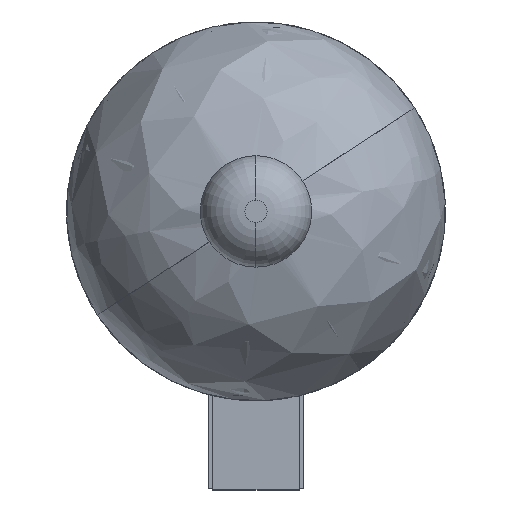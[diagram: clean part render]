
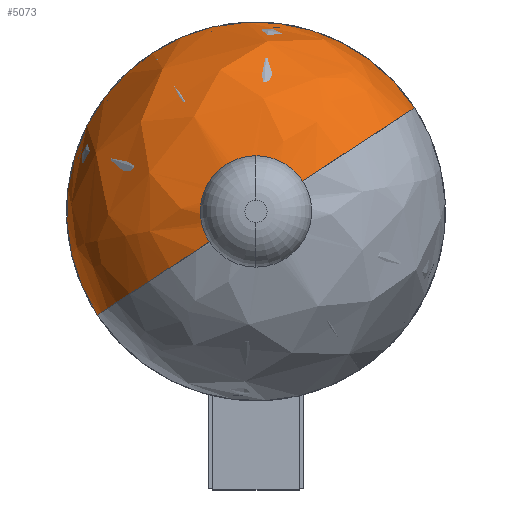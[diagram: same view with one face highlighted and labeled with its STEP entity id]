
A CAD part, front view. The second image highlights one B-rep face of the part: STEP entity #5073.
In plain terms, the highlighted free-form (B-spline) face has degree [3, 3] with [4, 4] control points.
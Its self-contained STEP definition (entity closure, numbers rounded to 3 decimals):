
#50 = CARTESIAN_POINT ( 'NONE',  ( 228.802, 79.921, 31.642 ) ) ;
#244 = CARTESIAN_POINT ( 'NONE',  ( 68.656, 79.921, 65.221 ) ) ;
#376 = ORIENTED_EDGE ( 'NONE', *, *, #13306, .T. ) ;
#586 = ORIENTED_EDGE ( 'NONE', *, *, #3730, .F. ) ;
#1204 = DIRECTION ( 'NONE',  ( 0., 1., 0. ) ) ;
#1458 = AXIS2_PLACEMENT_3D ( 'NONE', #3708, #4932, #5858 ) ;
#1701 = VERTEX_POINT ( 'NONE', #1952 ) ;
#1718 = FACE_OUTER_BOUND ( 'NONE', #12848, .T. ) ;
#1952 = CARTESIAN_POINT ( 'NONE',  ( 166.976, 73.292, -8.751 ) ) ;
#2189 = DIRECTION ( 'NONE',  ( 0.837, 0., 0.547 ) ) ;
#2212 = CARTESIAN_POINT ( 'NONE',  ( 166.976, 73.292, -8.751 ) ) ;
#2756 = CIRCLE ( 'NONE', #1458, 16. ) ;
#2950 = EDGE_CURVE ( 'NONE', #1701, #10686, #2756, .T. ) ;
#3207 = ORIENTED_EDGE ( 'NONE', *, *, #2950, .T. ) ;
#3270 = CARTESIAN_POINT ( 'NONE',  ( 131.939, 79.921, -31.642 ) ) ;
#3318 = CARTESIAN_POINT ( 'NONE',  ( 149.474, 73.292, 18.038 ) ) ;
#3320 = EDGE_CURVE ( 'NONE', #5913, #10833, #9870, .T. ) ;
#3373 = CARTESIAN_POINT ( 'NONE',  ( 109.212, 107.067, -46.49 ) ) ;
#3579 = DIRECTION ( 'NONE',  ( 0.837, 0., 0.547 ) ) ;
#3638 = ORIENTED_EDGE ( 'NONE', *, *, #3320, .T. ) ;
#3665 = CARTESIAN_POINT ( 'NONE',  ( 109.212, 142.286, -46.49 ) ) ;
#3708 = CARTESIAN_POINT ( 'NONE',  ( 180.371, 73.292, 0. ) ) ;
#3730 = EDGE_CURVE ( 'NONE', #1701, #10833, #13642, .T. ) ;
#4311 = CARTESIAN_POINT ( 'NONE',  ( 16.231, 107.067, 95.828 ) ) ;
#4458 = CARTESIAN_POINT ( 'NONE',  ( 158.55, 142.286, 188.809 ) ) ;
#4503 = CARTESIAN_POINT ( 'NONE',  ( 193.766, 73.292, 8.751 ) ) ;
#4711 = CARTESIAN_POINT ( 'NONE',  ( 109.212, 107.067, -46.49 ) ) ;
#4754 = CARTESIAN_POINT ( 'NONE',  ( 193.766, 73.292, 8.751 ) ) ;
#4932 = DIRECTION ( 'NONE',  ( 0., 1., 0. ) ) ;
#5014 = CIRCLE ( 'NONE', #7061, 16. ) ;
#5073 = ADVANCED_FACE ( 'NONE', ( #1718 ), #8650, .T. ) ;
#5858 = DIRECTION ( 'NONE',  ( 0.837, 0., 0.547 ) ) ;
#5913 = VERTEX_POINT ( 'NONE', #10021 ) ;
#6063 = CARTESIAN_POINT ( 'NONE',  ( 109.212, 142.286, -46.49 ) ) ;
#6423 = ORIENTED_EDGE ( 'NONE', *, *, #8055, .T. ) ;
#6515 = CARTESIAN_POINT ( 'NONE',  ( 176.263, 73.292, 35.541 ) ) ;
#6568 = CARTESIAN_POINT ( 'NONE',  ( 109.212, 142.286, -46.49 ) ) ;
#7051 =( BOUNDED_CURVE ( )  B_SPLINE_CURVE ( 3, ( #4754, #7922, #13342, #13469 ),
 .UNSPECIFIED., .F., .T. ) 
 B_SPLINE_CURVE_WITH_KNOTS ( ( 4, 4 ),
 ( 1.76, 3.142 ),
 .UNSPECIFIED. ) 
 CURVE ( )  GEOMETRIC_REPRESENTATION_ITEM ( )  RATIONAL_B_SPLINE_CURVE ( ( 1., 0.847, 0.847, 1. ) ) 
 REPRESENTATION_ITEM ( '' )  );
#7061 = AXIS2_PLACEMENT_3D ( 'NONE', #8656, #1204, #2189 ) ;
#7771 = CARTESIAN_POINT ( 'NONE',  ( 158.55, 107.067, 188.809 ) ) ;
#7922 = CARTESIAN_POINT ( 'NONE',  ( 228.802, 79.921, 31.642 ) ) ;
#8055 = EDGE_CURVE ( 'NONE', #10686, #11942, #5014, .T. ) ;
#8480 = CARTESIAN_POINT ( 'NONE',  ( 193.766, 73.292, 8.751 ) ) ;
#8650 =( BOUNDED_SURFACE ( )  B_SPLINE_SURFACE ( 3, 3, ( 
 ( #4503, #6515, #3318, #2212 ),
 ( #50, #9767, #244, #3270 ),
 ( #10846, #7771, #4311, #3373 ),
 ( #11862, #4458, #8722, #6568 ) ),
 .UNSPECIFIED., .F., .F., .F. ) 
 B_SPLINE_SURFACE_WITH_KNOTS ( ( 4, 4 ),
 ( 4, 4 ),
 ( 0., 1. ),
 ( 0., 1. ),
 .UNSPECIFIED. ) 
 GEOMETRIC_REPRESENTATION_ITEM ( )  RATIONAL_B_SPLINE_SURFACE ( (
 ( 1., 0.333, 0.333, 1.),
 ( 0.847, 0.282, 0.282, 0.847),
 ( 0.847, 0.282, 0.282, 0.847),
 ( 1., 0.333, 0.333, 1.) ) ) 
 REPRESENTATION_ITEM ( '' )  SURFACE ( )  );
#8656 = CARTESIAN_POINT ( 'NONE',  ( 180.371, 73.292, 0. ) ) ;
#8722 = CARTESIAN_POINT ( 'NONE',  ( 16.231, 142.286, 95.828 ) ) ;
#8768 = AXIS2_PLACEMENT_3D ( 'NONE', #11005, #13257, #3579 ) ;
#8927 = CARTESIAN_POINT ( 'NONE',  ( 171.62, 73.292, 13.395 ) ) ;
#9767 = CARTESIAN_POINT ( 'NONE',  ( 165.519, 79.921, 128.505 ) ) ;
#9870 = CIRCLE ( 'NONE', #8768, 85. ) ;
#10021 = CARTESIAN_POINT ( 'NONE',  ( 251.53, 142.286, 46.49 ) ) ;
#10095 = CARTESIAN_POINT ( 'NONE',  ( 131.939, 79.921, -31.642 ) ) ;
#10686 = VERTEX_POINT ( 'NONE', #8927 ) ;
#10833 = VERTEX_POINT ( 'NONE', #6063 ) ;
#10846 = CARTESIAN_POINT ( 'NONE',  ( 251.53, 107.067, 46.49 ) ) ;
#11005 = CARTESIAN_POINT ( 'NONE',  ( 180.371, 142.286, 0. ) ) ;
#11862 = CARTESIAN_POINT ( 'NONE',  ( 251.53, 142.286, 46.49 ) ) ;
#11942 = VERTEX_POINT ( 'NONE', #8480 ) ;
#12059 = CARTESIAN_POINT ( 'NONE',  ( 166.976, 73.292, -8.751 ) ) ;
#12848 = EDGE_LOOP ( 'NONE', ( #586, #3207, #6423, #376, #3638 ) ) ;
#13257 = DIRECTION ( 'NONE',  ( 0., -1., 0. ) ) ;
#13306 = EDGE_CURVE ( 'NONE', #11942, #5913, #7051, .T. ) ;
#13342 = CARTESIAN_POINT ( 'NONE',  ( 251.53, 107.067, 46.49 ) ) ;
#13469 = CARTESIAN_POINT ( 'NONE',  ( 251.53, 142.286, 46.49 ) ) ;
#13642 =( BOUNDED_CURVE ( )  B_SPLINE_CURVE ( 3, ( #12059, #10095, #4711, #3665 ),
 .UNSPECIFIED., .F., .T. ) 
 B_SPLINE_CURVE_WITH_KNOTS ( ( 4, 4 ),
 ( 1.76, 3.142 ),
 .UNSPECIFIED. ) 
 CURVE ( )  GEOMETRIC_REPRESENTATION_ITEM ( )  RATIONAL_B_SPLINE_CURVE ( ( 1., 0.847, 0.847, 1. ) ) 
 REPRESENTATION_ITEM ( '' )  );
